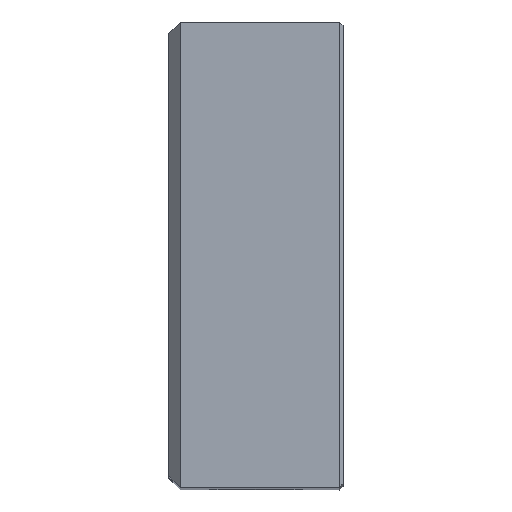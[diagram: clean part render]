
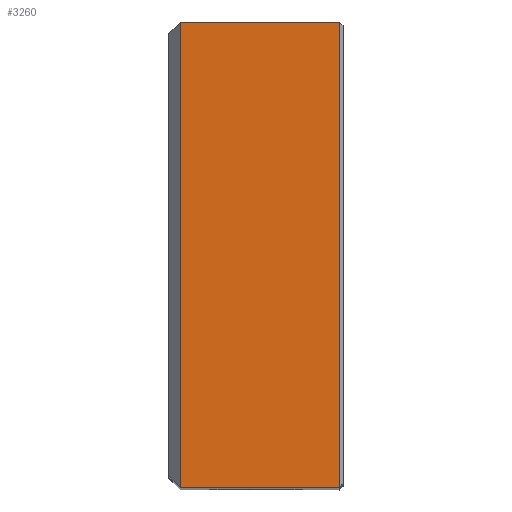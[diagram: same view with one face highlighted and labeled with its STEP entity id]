
A CAD part, top view. The second image highlights one B-rep face of the part: STEP entity #3260.
In plain terms, the highlighted planar face has unit normal (0, 0, 1).
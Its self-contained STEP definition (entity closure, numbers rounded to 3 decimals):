
#275=VERTEX_POINT(' ',#276);
#276=CARTESIAN_POINT('',(44.,-60.,0.));
#285=VERTEX_POINT(' ',#286);
#286=CARTESIAN_POINT('',(44.,60.,0.));
#319=VERTEX_POINT(' ',#320);
#320=CARTESIAN_POINT('',(3.,-60.,0.));
#327=VERTEX_POINT(' ',#328);
#328=CARTESIAN_POINT('',(3.,60.,0.));
#1561=LINE('',#1562,#1563);
#1562=CARTESIAN_POINT('',(44.,65.657,0.));
#1563=VECTOR('',#1564,1.);
#1564=DIRECTION('',(0.,-1.,0.));
#1565=EDGE_CURVE(' ',#285,#275,#1561,.T.);
#1725=LINE('',#1726,#1727);
#1726=CARTESIAN_POINT('',(45.12,-60.,0.));
#1727=VECTOR('',#1728,1.);
#1728=DIRECTION('',(-1.,0.,0.));
#1729=EDGE_CURVE(' ',#275,#319,#1725,.T.);
#1764=LINE('',#1765,#1766);
#1765=CARTESIAN_POINT('',(3.,-73.971,0.));
#1766=VECTOR('',#1767,1.);
#1767=DIRECTION('',(0.,1.,0.));
#1768=EDGE_CURVE(' ',#319,#327,#1764,.T.);
#1769=LINE('',#1770,#1771);
#1770=CARTESIAN_POINT('',(45.12,60.,0.));
#1771=VECTOR('',#1772,1.);
#1772=DIRECTION('',(-1.,0.,0.));
#1773=EDGE_CURVE(' ',#285,#327,#1769,.T.);
#3249=ORIENTED_EDGE('',*,*,#1768,.F.);
#3250=ORIENTED_EDGE('',*,*,#1729,.F.);
#3251=ORIENTED_EDGE('',*,*,#1565,.F.);
#3252=ORIENTED_EDGE('',*,*,#1773,.T.);
#3253=EDGE_LOOP('',(#3249,#3250,#3251,#3252));
#3254=FACE_OUTER_BOUND('',#3253,.T.);
#3255=PLANE('',#3256);
#3256=AXIS2_PLACEMENT_3D('',#3257,#3258,#3259);
#3257=CARTESIAN_POINT('',(0.,-60.,0.));
#3258=DIRECTION('',(0.,0.,1.));
#3259=DIRECTION('',(0.,1.,0.));
#3260=ADVANCED_FACE('',(#3254),#3255,.T.);
